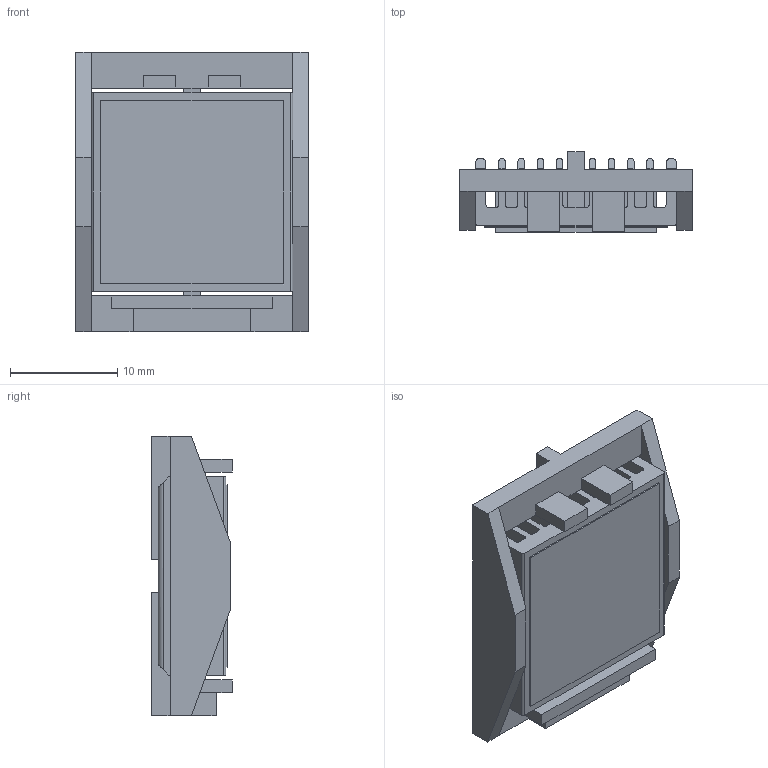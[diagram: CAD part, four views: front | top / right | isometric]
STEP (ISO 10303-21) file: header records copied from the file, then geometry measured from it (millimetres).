
FILE_DESCRIPTION (( 'STEP AP214' ), '1' );
FILE_NAME ('INL19001-6-1.7O.STEP', '2023-02-20T23:52:17', ( '' ), ( '' ), 'SwSTEP 2.0', 'SolidWorks 2020', '' );
FILE_SCHEMA (( 'AUTOMOTIVE_DESIGN' ));
Length unit declared in the file: millimetre
Products named in the file (1): INL19001-6-1.7O
Bounding box: 21.7 x 7.5 x 26.1 mm (x, y, z)
Volume: 2008.9 mm3; surface area: 4422.7 mm2
Topology: 3 solids, 3 shells, 136 faces, 392 edges, 260 vertices
Faces by surface type: plane 106, cylinder 30
Entity records: 5956 total; most frequent: CARTESIAN_POINT 849, ORIENTED_EDGE 784, DIRECTION 686, EDGE_CURVE 392, VECTOR 332, LINE 332, VERTEX_POINT 260, AXIS2_PLACEMENT_3D 177
